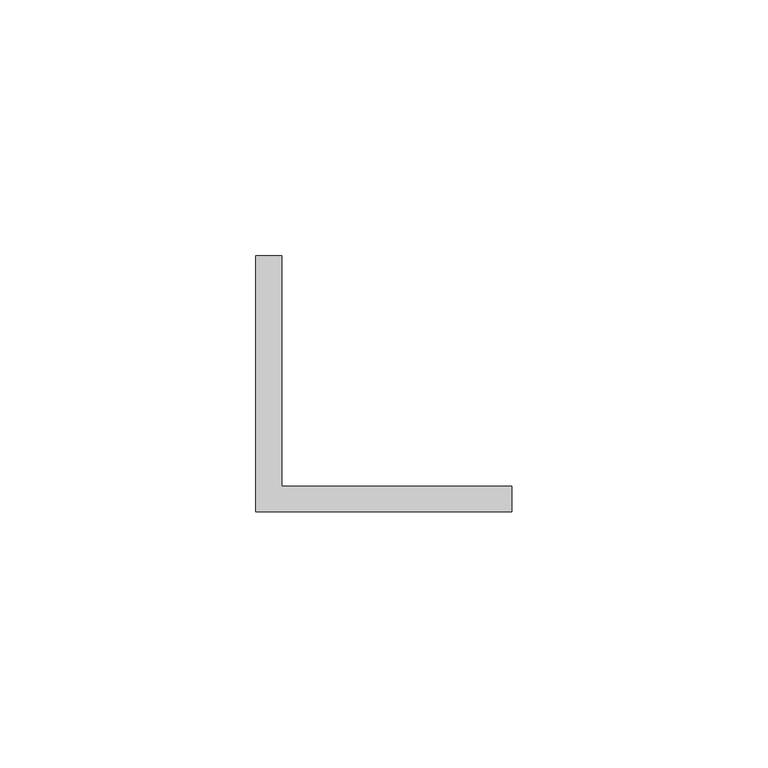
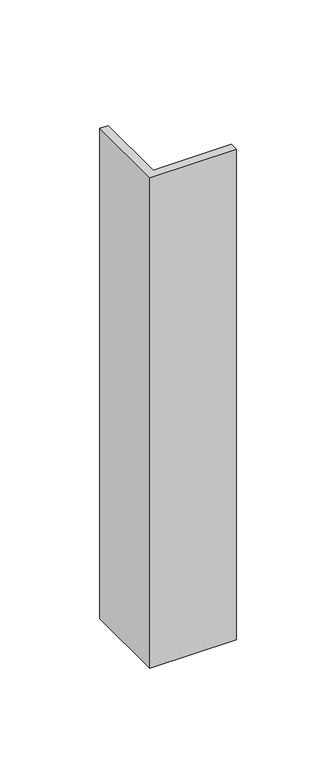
"""IFC4 building model written with IfcOpenShell, lengths in millimetres: proxy geometry, ▲EE_Уголок_стальной : 50х50х5_мм."""

from ifc_helpers import new_model, si_unit, origin, origin_with_axes, place, context, project, spatial, polyline, outline, extrude, source, transform, mapped, element, save


def electrical_equipment_4f19a133(model_context):
    return source(origin(), model_context, "Body", "SweptSolid", [
        extrude(outline(polyline([(0.0, -450.0), (0.0, -400.0), (5.0, -400.0), (5.0, -445.0), (50.0, -445.0), (50.0, -450.0), (0.0, -450.0)])), origin_with_axes(), (0.0, 0.0, 1.0), 300.0),
    ])


if __name__ == "__main__":
    model = new_model("IFC4")
    model_context = context("Model", 3, world=origin())
    ifc_project = project(units=[si_unit("LENGTHUNIT", "METRE", prefix="MILLI")], contexts=[model_context])
    site = spatial("IfcSite", under=ifc_project)
    building = spatial("IfcBuilding", under=site)
    placement = place(None, origin())
    electrical_equipment_shape = electrical_equipment_4f19a133(model_context)
    element("IfcBuildingElementProxy", 1, Name="▲EE_Уголок_стальной : 50х50х5_мм", ObjectType="▲EE_Уголок_стальной : 50х50х5_мм", at=placement, inside=building, context=model_context, shape_type="MappedRepresentation", body=[
        mapped(electrical_equipment_shape, transform((0.0, 0.0, 0.0), x_axis=(1.0, 0.0, 0.0), y_axis=(0.0, 1.0, 0.0), z_axis=(0.0, 0.0, 1.0))),
    ])
    save(model, "model.ifc")
